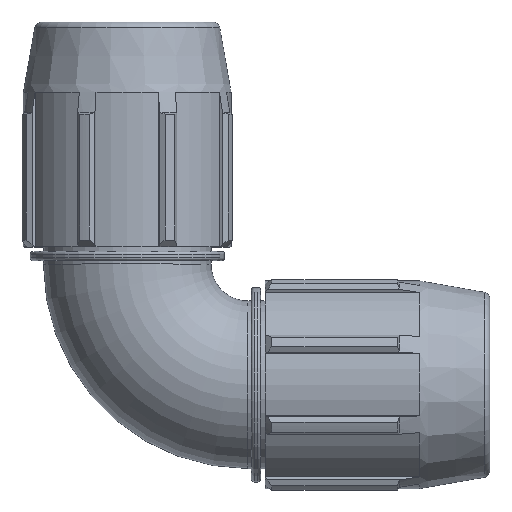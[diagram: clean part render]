
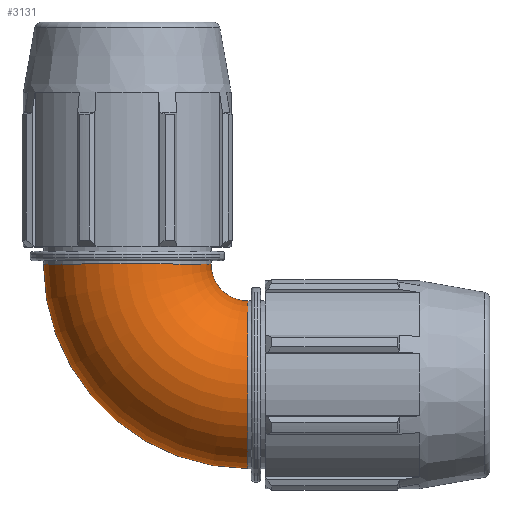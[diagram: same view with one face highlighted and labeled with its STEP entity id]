
A CAD part, top view. The second image highlights one B-rep face of the part: STEP entity #3131.
In plain terms, the highlighted toroidal (fillet/blend) face has major radius 97.79 mm and minor radius 67.913 mm.
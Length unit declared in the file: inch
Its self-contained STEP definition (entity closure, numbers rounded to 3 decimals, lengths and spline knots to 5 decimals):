
#601=TOROIDAL_SURFACE('',#3322,3.85,2.67375);
#623=FACE_OUTER_BOUND('',#787,.T.);
#787=EDGE_LOOP('',(#1949,#1950,#1951,#1952,#1953,#1954,#1955));
#965=CIRCLE('',#3323,2.67375);
#966=CIRCLE('',#3324,2.67375);
#967=CIRCLE('',#3325,1.17625);
#968=CIRCLE('',#3326,2.67375);
#969=CIRCLE('',#3327,2.67375);
#970=CIRCLE('',#3328,2.67375);
#1139=VERTEX_POINT('',#4551);
#1140=VERTEX_POINT('',#4552);
#1141=VERTEX_POINT('',#4555);
#1142=VERTEX_POINT('',#4557);
#1143=VERTEX_POINT('',#4559);
#1467=EDGE_CURVE('',#1139,#1140,#965,.T.);
#1468=EDGE_CURVE('',#1140,#1139,#966,.T.);
#1469=EDGE_CURVE('',#1140,#1141,#967,.T.);
#1470=EDGE_CURVE('',#1142,#1141,#968,.T.);
#1471=EDGE_CURVE('',#1143,#1142,#969,.T.);
#1472=EDGE_CURVE('',#1141,#1143,#970,.T.);
#1949=ORIENTED_EDGE('',*,*,#1467,.F.);
#1950=ORIENTED_EDGE('',*,*,#1468,.F.);
#1951=ORIENTED_EDGE('',*,*,#1469,.T.);
#1952=ORIENTED_EDGE('',*,*,#1470,.F.);
#1953=ORIENTED_EDGE('',*,*,#1471,.F.);
#1954=ORIENTED_EDGE('',*,*,#1472,.F.);
#1955=ORIENTED_EDGE('',*,*,#1469,.F.);
#3131=ADVANCED_FACE('',(#623),#601,.T.);
#3322=AXIS2_PLACEMENT_3D('',#4550,#3673,#3674);
#3323=AXIS2_PLACEMENT_3D('',#4553,#3675,#3676);
#3324=AXIS2_PLACEMENT_3D('',#4554,#3677,#3678);
#3325=AXIS2_PLACEMENT_3D('',#4556,#3679,#3680);
#3326=AXIS2_PLACEMENT_3D('',#4558,#3681,#3682);
#3327=AXIS2_PLACEMENT_3D('',#4560,#3683,#3684);
#3328=AXIS2_PLACEMENT_3D('',#4561,#3685,#3686);
#3673=DIRECTION('center_axis',(0.,0.,-1.));
#3674=DIRECTION('ref_axis',(-1.,0.,0.));
#3675=DIRECTION('center_axis',(0.,1.,0.));
#3676=DIRECTION('ref_axis',(0.,0.,-1.));
#3677=DIRECTION('center_axis',(0.,1.,0.));
#3678=DIRECTION('ref_axis',(0.,0.,-1.));
#3679=DIRECTION('center_axis',(0.,0.,1.));
#3680=DIRECTION('ref_axis',(-1.,0.,0.));
#3681=DIRECTION('center_axis',(1.,0.,0.));
#3682=DIRECTION('ref_axis',(0.,0.,-1.));
#3683=DIRECTION('center_axis',(1.,0.,0.));
#3684=DIRECTION('ref_axis',(0.,0.,-1.));
#3685=DIRECTION('center_axis',(1.,0.,0.));
#3686=DIRECTION('ref_axis',(0.,0.,-1.));
#4550=CARTESIAN_POINT('Origin',(3.85,3.85,0.));
#4551=CARTESIAN_POINT('',(0.,3.85,-2.67375));
#4552=CARTESIAN_POINT('',(2.67375,3.85,0.));
#4553=CARTESIAN_POINT('Origin',(0.,3.85,0.));
#4554=CARTESIAN_POINT('Origin',(0.,3.85,0.));
#4555=CARTESIAN_POINT('',(3.85,2.67375,0.));
#4556=CARTESIAN_POINT('Origin',(3.85,3.85,0.));
#4557=CARTESIAN_POINT('',(3.85,0.,-2.67375));
#4558=CARTESIAN_POINT('Origin',(3.85,0.,0.));
#4559=CARTESIAN_POINT('',(3.85,-2.67375,0.));
#4560=CARTESIAN_POINT('Origin',(3.85,0.,0.));
#4561=CARTESIAN_POINT('Origin',(3.85,0.,0.));
